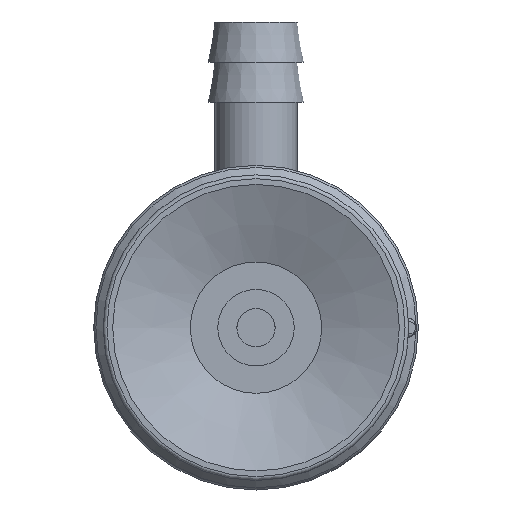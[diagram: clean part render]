
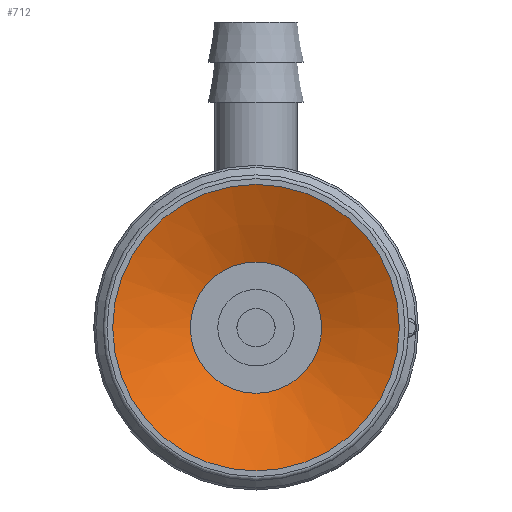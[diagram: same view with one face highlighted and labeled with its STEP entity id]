
A CAD part, front view. The second image highlights one B-rep face of the part: STEP entity #712.
In plain terms, the highlighted conical face has half-angle 67.5 degrees and reference radius 3.437 mm.
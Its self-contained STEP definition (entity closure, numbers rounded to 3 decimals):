
#712=ADVANCED_FACE('',(#1031,#1032),#1033,.F.);
#1031=FACE_BOUND('',#2393,.T.);
#1032=FACE_OUTER_BOUND('',#2394,.T.);
#1033=CONICAL_SURFACE('',#2395,3.437,1.178);
#2393=EDGE_LOOP('',(#3190));
#2394=EDGE_LOOP('',(#3191));
#2395=AXIS2_PLACEMENT_3D('',#3192,#3193,#3194);
#3190=ORIENTED_EDGE('',*,*,#3515,.F.);
#3191=ORIENTED_EDGE('',*,*,#3503,.T.);
#3192=CARTESIAN_POINT('',(0.0,0.0,1.683));
#3193=DIRECTION('',(0.0,0.,-1.0));
#3194=DIRECTION('',(0.0,1.0,0.));
#3503=EDGE_CURVE('',#3871,#3871,#3872,.T.);
#3515=EDGE_CURVE('',#3895,#3895,#3896,.T.);
#3871=VERTEX_POINT('',#4872);
#3872=CIRCLE('',#4873,7.5);
#3895=VERTEX_POINT('',#4896);
#3896=CIRCLE('',#4897,3.437);
#4872=CARTESIAN_POINT('',(-7.5,0.0,0.));
#4873=AXIS2_PLACEMENT_3D('',#5240,#5241,#5242);
#4896=CARTESIAN_POINT('',(-3.437,0.0,1.683));
#4897=AXIS2_PLACEMENT_3D('',#5276,#5277,#5278);
#5240=CARTESIAN_POINT('',(0.0,0.0,0.));
#5241=DIRECTION('',(0.0,0.,-1.0));
#5242=DIRECTION('',(0.0,1.0,0.));
#5276=CARTESIAN_POINT('',(0.0,0.0,1.683));
#5277=DIRECTION('',(0.0,0.,-1.0));
#5278=DIRECTION('',(0.0,1.0,0.));
